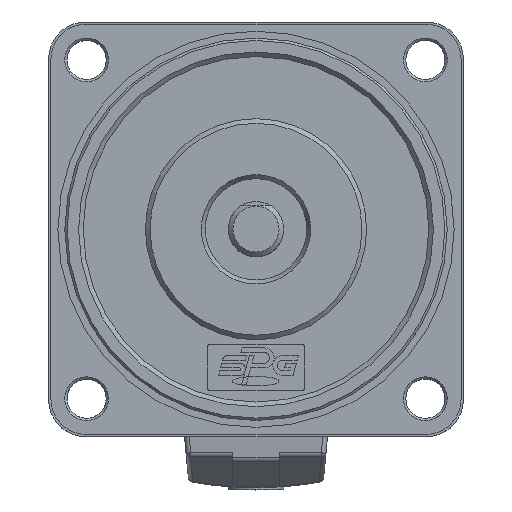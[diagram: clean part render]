
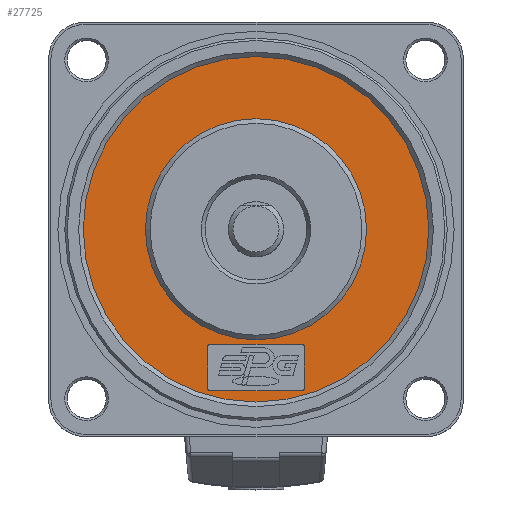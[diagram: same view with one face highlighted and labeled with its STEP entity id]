
A CAD part, top view. The second image highlights one B-rep face of the part: STEP entity #27725.
In plain terms, the highlighted planar face has unit normal (0, 0, 1).
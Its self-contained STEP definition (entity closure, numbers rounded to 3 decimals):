
#27296=CARTESIAN_POINT('',(71.389,100.667,159.563));
#27297=VERTEX_POINT('',#27296);
#27304=CARTESIAN_POINT('',(71.889,101.167,159.563));
#27305=VERTEX_POINT('',#27304);
#27306=CARTESIAN_POINT('',(71.389,101.167,159.563));
#27307=DIRECTION('',(0.0,0.0,-1.0));
#27308=DIRECTION('',(0.0,-1.0,0.0));
#27309=AXIS2_PLACEMENT_3D('',#27306,#27307,#27308);
#27310=CIRCLE('',#27309,0.5);
#27311=EDGE_CURVE('',#27305,#27297,#27310,.T.);
#27336=CARTESIAN_POINT('',(71.889,110.167,159.563));
#27337=VERTEX_POINT('',#27336);
#27338=CARTESIAN_POINT('',(71.889,110.167,159.563));
#27339=DIRECTION('',(0.0,-1.0,0.0));
#27340=VECTOR('',#27339,9.0);
#27341=LINE('',#27338,#27340);
#27342=EDGE_CURVE('',#27337,#27305,#27341,.T.);
#27368=CARTESIAN_POINT('',(71.389,110.667,159.563));
#27369=VERTEX_POINT('',#27368);
#27370=CARTESIAN_POINT('',(71.389,110.167,159.563));
#27371=DIRECTION('',(0.0,0.0,-1.0));
#27372=DIRECTION('',(1.0,0.0,0.0));
#27373=AXIS2_PLACEMENT_3D('',#27370,#27371,#27372);
#27374=CIRCLE('',#27373,0.5);
#27375=EDGE_CURVE('',#27369,#27337,#27374,.T.);
#27400=CARTESIAN_POINT('',(51.389,110.667,159.563));
#27401=VERTEX_POINT('',#27400);
#27402=CARTESIAN_POINT('',(51.389,110.667,159.563));
#27403=DIRECTION('',(1.0,0.0,0.0));
#27404=VECTOR('',#27403,20.0);
#27405=LINE('',#27402,#27404);
#27406=EDGE_CURVE('',#27401,#27369,#27405,.T.);
#27432=CARTESIAN_POINT('',(50.889,110.167,159.563));
#27433=VERTEX_POINT('',#27432);
#27434=CARTESIAN_POINT('',(51.389,110.167,159.563));
#27435=DIRECTION('',(0.0,0.0,-1.0));
#27436=DIRECTION('',(0.0,1.0,0.0));
#27437=AXIS2_PLACEMENT_3D('',#27434,#27435,#27436);
#27438=CIRCLE('',#27437,0.5);
#27439=EDGE_CURVE('',#27433,#27401,#27438,.T.);
#27464=CARTESIAN_POINT('',(50.889,101.167,159.563));
#27465=VERTEX_POINT('',#27464);
#27466=CARTESIAN_POINT('',(50.889,101.167,159.563));
#27467=DIRECTION('',(0.0,1.0,0.0));
#27468=VECTOR('',#27467,9.);
#27469=LINE('',#27466,#27468);
#27470=EDGE_CURVE('',#27465,#27433,#27469,.T.);
#27496=CARTESIAN_POINT('',(51.389,100.667,159.563));
#27497=VERTEX_POINT('',#27496);
#27498=CARTESIAN_POINT('',(51.389,101.167,159.563));
#27499=DIRECTION('',(0.0,0.0,-1.0));
#27500=DIRECTION('',(-1.0,0.0,0.0));
#27501=AXIS2_PLACEMENT_3D('',#27498,#27499,#27500);
#27502=CIRCLE('',#27501,0.5);
#27503=EDGE_CURVE('',#27497,#27465,#27502,.T.);
#27526=CARTESIAN_POINT('',(71.389,100.667,159.563));
#27527=DIRECTION('',(-1.0,0.0,0.0));
#27528=VECTOR('',#27527,20.0);
#27529=LINE('',#27526,#27528);
#27530=EDGE_CURVE('',#27297,#27497,#27529,.T.);
#27681=CARTESIAN_POINT('',(85.389,135.667,159.563));
#27682=VERTEX_POINT('',#27681);
#27683=CARTESIAN_POINT('',(61.389,135.667,159.563));
#27684=DIRECTION('',(0.0,0.0,1.0));
#27685=DIRECTION('',(-1.0,0.0,0.0));
#27686=AXIS2_PLACEMENT_3D('',#27683,#27684,#27685);
#27687=CIRCLE('',#27686,24.);
#27688=EDGE_CURVE('',#27682,#27682,#27687,.T.);
#27696=CARTESIAN_POINT('',(61.389,135.667,159.563));
#27697=DIRECTION('',(0.0,0.0,-1.0));
#27698=DIRECTION('',(-1.0,0.0,0.0));
#27699=AXIS2_PLACEMENT_3D('',#27696,#27697,#27698);
#27700=PLANE('',#27699);
#27701=CARTESIAN_POINT('',(98.889,135.667,159.563));
#27702=VERTEX_POINT('',#27701);
#27703=CARTESIAN_POINT('',(61.389,135.667,159.563));
#27704=DIRECTION('',(0.0,0.0,-1.0));
#27705=DIRECTION('',(-1.0,0.0,0.0));
#27706=AXIS2_PLACEMENT_3D('',#27703,#27704,#27705);
#27707=CIRCLE('',#27706,37.5);
#27708=EDGE_CURVE('',#27702,#27702,#27707,.T.);
#27709=ORIENTED_EDGE('',*,*,#27708,.F.);
#27710=EDGE_LOOP('',(#27709));
#27711=FACE_OUTER_BOUND('',#27710,.T.);
#27712=ORIENTED_EDGE('',*,*,#27311,.T.);
#27713=ORIENTED_EDGE('',*,*,#27530,.T.);
#27714=ORIENTED_EDGE('',*,*,#27503,.T.);
#27715=ORIENTED_EDGE('',*,*,#27470,.T.);
#27716=ORIENTED_EDGE('',*,*,#27439,.T.);
#27717=ORIENTED_EDGE('',*,*,#27406,.T.);
#27718=ORIENTED_EDGE('',*,*,#27375,.T.);
#27719=ORIENTED_EDGE('',*,*,#27342,.T.);
#27720=EDGE_LOOP('',(#27712,#27713,#27714,#27715,#27716,#27717,#27718,#27719));
#27721=FACE_BOUND('',#27720,.T.);
#27722=ORIENTED_EDGE('',*,*,#27688,.F.);
#27723=EDGE_LOOP('',(#27722));
#27724=FACE_BOUND('',#27723,.T.);
#27725=ADVANCED_FACE('',(#27711,#27721,#27724),#27700,.F.);
